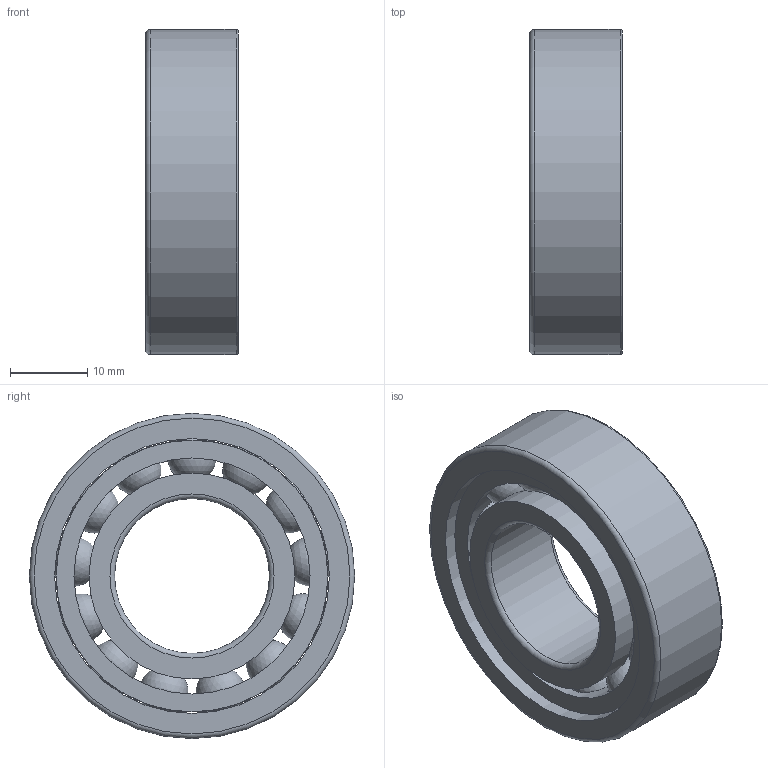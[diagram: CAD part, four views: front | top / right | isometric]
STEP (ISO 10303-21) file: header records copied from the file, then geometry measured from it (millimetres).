
FILE_DESCRIPTION(/* description */ (''),/* implementation_level */ '2;1');
FILE_NAME(/* name */ 'SM_6004_TA.step',/* time_stamp */ '2013-03-11T11:34:15+01:00',/* author */ ('Marian'),/* organization */ ('GMN'),/* preprocessor_version */ 'ST-DEVELOPER v11',/* originating_system */ 'SIEMENS UGS NX 6.0',/* authorisation */ '');
FILE_SCHEMA (('CONFIG_CONTROL_DESIGN'));
Length unit declared in the file: millimetre
Products named in the file (1): SM_6004_TA
Bounding box: 12 x 42 x 42 mm (x, y, z)
Volume: 9467.5 mm3; surface area: 9568.6 mm2
Topology: 16 solids, 16 shells, 46 faces, 112 edges, 72 vertices
Faces by surface type: cylinder 20, sphere 13, torus 6, plane 6, cone 1
Full cylindrical faces by diameter (mm): 6.55 x13, 20 x1, 26.6 x2, 30.49 x1, 35.1 x1, 35.5 x1, 42 x1
Entity records: 2500 total; most frequent: CARTESIAN_POINT 1634, DIRECTION 134, FACE_BOUND 105, EDGE_LOOP 92, ORIENTED_EDGE 92, AXIS2_PLACEMENT_3D 67, VERTEX_POINT 59, EDGE_CURVE 46
